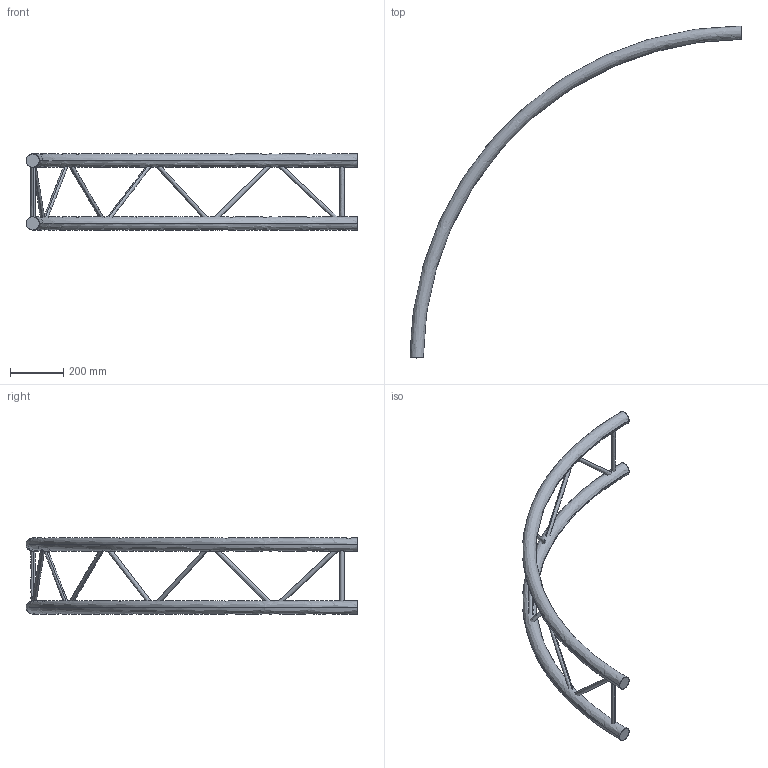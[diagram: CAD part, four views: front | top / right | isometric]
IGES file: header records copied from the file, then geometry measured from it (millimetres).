
Start section: SolidWorks IGES file using analytic representation for surfaces
Global section: file name: K:\BIBLIO\asd_biblio\EX290\Cercles\EXC290V\EXC29250V\EXC29250V.IGS; native system: SolidWorks 2009; preprocessor: SolidWorks 2009; author: des3; date: 091026.102939; units: millimetre
Bounding box: 1250 x 1250 x 287 mm (x, y, z)
Surface area: 741972.6 mm2 (no closed solid volume)
Topology: 0 solids, 0 shells, 35 faces, 1371 edges, 1371 vertices
Faces by surface type: revolution 18, bspline 17
